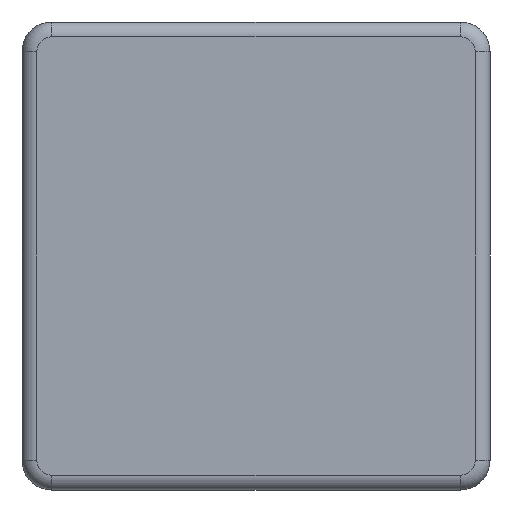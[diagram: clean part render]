
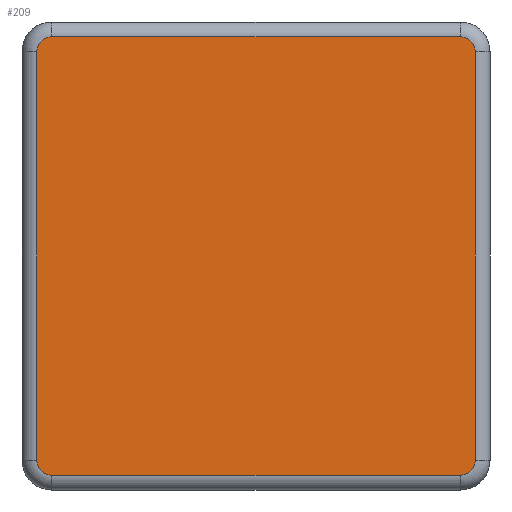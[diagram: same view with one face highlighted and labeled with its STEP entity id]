
A CAD part, front view. The second image highlights one B-rep face of the part: STEP entity #209.
In plain terms, the highlighted planar face has unit normal (0, -1, 0).
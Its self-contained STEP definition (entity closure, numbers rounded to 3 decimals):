
#2 = EDGE_CURVE ( 'NONE', #624, #25, #588, .T. ) ;
#23 = CARTESIAN_POINT ( 'NONE',  ( 7.4, -1., 6.9 ) ) ;
#24 = EDGE_CURVE ( 'NONE', #669, #624, #212, .T. ) ;
#25 = VERTEX_POINT ( 'NONE', #551 ) ;
#35 = DIRECTION ( 'NONE',  ( 0., 0., -1. ) ) ;
#36 = ORIENTED_EDGE ( 'NONE', *, *, #503, .T. ) ;
#41 = ORIENTED_EDGE ( 'NONE', *, *, #458, .T. ) ;
#73 = EDGE_CURVE ( 'NONE', #274, #664, #104, .T. ) ;
#89 = PLANE ( 'NONE',  #313 ) ;
#92 = ORIENTED_EDGE ( 'NONE', *, *, #73, .T. ) ;
#103 = AXIS2_PLACEMENT_3D ( 'NONE', #386, #228, #612 ) ;
#104 = LINE ( 'NONE', #609, #443 ) ;
#117 = DIRECTION ( 'NONE',  ( 0., 0., -1. ) ) ;
#128 = VERTEX_POINT ( 'NONE', #158 ) ;
#144 = ORIENTED_EDGE ( 'NONE', *, *, #24, .T. ) ;
#145 = DIRECTION ( 'NONE',  ( 0., -1., 0. ) ) ;
#158 = CARTESIAN_POINT ( 'NONE',  ( -6.9, -1., 7.4 ) ) ;
#164 = CARTESIAN_POINT ( 'NONE',  ( -7.4, -1., -6.9 ) ) ;
#188 = CIRCLE ( 'NONE', #210, 0.5 ) ;
#191 = ORIENTED_EDGE ( 'NONE', *, *, #605, .T. ) ;
#192 = CARTESIAN_POINT ( 'NONE',  ( 7.4, -1., -6.9 ) ) ;
#209 = ADVANCED_FACE ( 'NONE', ( #617 ), #89, .T. ) ;
#210 = AXIS2_PLACEMENT_3D ( 'NONE', #218, #222, #616 ) ;
#212 = CIRCLE ( 'NONE', #317, 0.5 ) ;
#218 = CARTESIAN_POINT ( 'NONE',  ( 6.9, -1., 6.9 ) ) ;
#222 = DIRECTION ( 'NONE',  ( 0., -1., 0. ) ) ;
#228 = DIRECTION ( 'NONE',  ( 0., -1., 0. ) ) ;
#274 = VERTEX_POINT ( 'NONE', #192 ) ;
#297 = VERTEX_POINT ( 'NONE', #697 ) ;
#303 = CARTESIAN_POINT ( 'NONE',  ( -6.9, -1., 7.4 ) ) ;
#304 = ORIENTED_EDGE ( 'NONE', *, *, #392, .T. ) ;
#311 = CARTESIAN_POINT ( 'NONE',  ( -6.9, -1., 6.9 ) ) ;
#313 = AXIS2_PLACEMENT_3D ( 'NONE', #413, #145, #362 ) ;
#317 = AXIS2_PLACEMENT_3D ( 'NONE', #323, #329, #387 ) ;
#323 = CARTESIAN_POINT ( 'NONE',  ( -6.9, -1., -6.9 ) ) ;
#329 = DIRECTION ( 'NONE',  ( 0., -1., 0. ) ) ;
#342 = VERTEX_POINT ( 'NONE', #471 ) ;
#350 = CIRCLE ( 'NONE', #432, 0.5 ) ;
#362 = DIRECTION ( 'NONE',  ( 0., 0., -1. ) ) ;
#371 = EDGE_CURVE ( 'NONE', #128, #297, #350, .T. ) ;
#376 = VECTOR ( 'NONE', #487, 1000. ) ;
#386 = CARTESIAN_POINT ( 'NONE',  ( 6.9, -1., -6.9 ) ) ;
#387 = DIRECTION ( 'NONE',  ( 0., 0., -1. ) ) ;
#392 = EDGE_CURVE ( 'NONE', #342, #128, #593, .T. ) ;
#407 = CIRCLE ( 'NONE', #103, 0.5 ) ;
#413 = CARTESIAN_POINT ( 'NONE',  ( 0., -1., 0. ) ) ;
#420 = VECTOR ( 'NONE', #117, 1000. ) ;
#432 = AXIS2_PLACEMENT_3D ( 'NONE', #311, #653, #35 ) ;
#443 = VECTOR ( 'NONE', #545, 1000. ) ;
#458 = EDGE_CURVE ( 'NONE', #297, #669, #493, .T. ) ;
#464 = VECTOR ( 'NONE', #544, 1000. ) ;
#470 = ORIENTED_EDGE ( 'NONE', *, *, #2, .T. ) ;
#471 = CARTESIAN_POINT ( 'NONE',  ( 6.9, -1., 7.4 ) ) ;
#487 = DIRECTION ( 'NONE',  ( 1., 0., 0. ) ) ;
#493 = LINE ( 'NONE', #164, #420 ) ;
#503 = EDGE_CURVE ( 'NONE', #664, #342, #188, .T. ) ;
#515 = CARTESIAN_POINT ( 'NONE',  ( -6.9, -1., -7.4 ) ) ;
#517 = CARTESIAN_POINT ( 'NONE',  ( -7.4, -1., -6.9 ) ) ;
#544 = DIRECTION ( 'NONE',  ( -1., 0., 0. ) ) ;
#545 = DIRECTION ( 'NONE',  ( 0., 0., 1. ) ) ;
#551 = CARTESIAN_POINT ( 'NONE',  ( 6.9, -1., -7.4 ) ) ;
#588 = LINE ( 'NONE', #594, #376 ) ;
#593 = LINE ( 'NONE', #303, #464 ) ;
#594 = CARTESIAN_POINT ( 'NONE',  ( 6.9, -1., -7.4 ) ) ;
#605 = EDGE_CURVE ( 'NONE', #25, #274, #407, .T. ) ;
#609 = CARTESIAN_POINT ( 'NONE',  ( 7.4, -1., 6.9 ) ) ;
#612 = DIRECTION ( 'NONE',  ( 0., 0., -1. ) ) ;
#616 = DIRECTION ( 'NONE',  ( 0., 0., -1. ) ) ;
#617 = FACE_OUTER_BOUND ( 'NONE', #638, .T. ) ;
#624 = VERTEX_POINT ( 'NONE', #515 ) ;
#638 = EDGE_LOOP ( 'NONE', ( #92, #36, #304, #723, #41, #144, #470, #191 ) ) ;
#653 = DIRECTION ( 'NONE',  ( 0., -1., 0. ) ) ;
#664 = VERTEX_POINT ( 'NONE', #23 ) ;
#669 = VERTEX_POINT ( 'NONE', #517 ) ;
#697 = CARTESIAN_POINT ( 'NONE',  ( -7.4, -1., 6.9 ) ) ;
#723 = ORIENTED_EDGE ( 'NONE', *, *, #371, .T. ) ;
